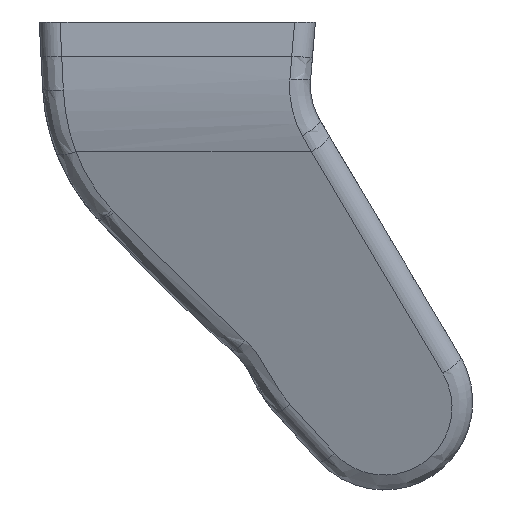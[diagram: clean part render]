
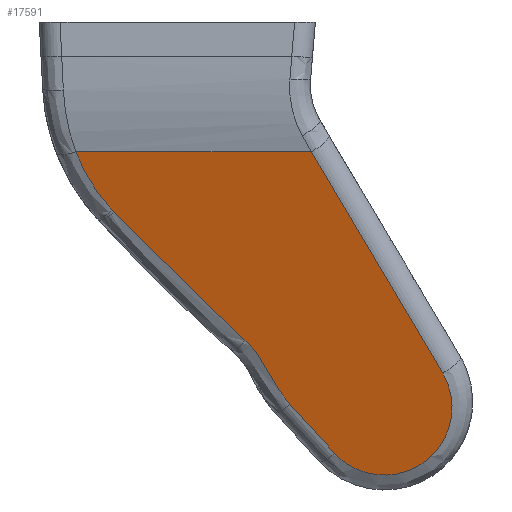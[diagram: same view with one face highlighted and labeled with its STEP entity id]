
A CAD part, left-side view. The second image highlights one B-rep face of the part: STEP entity #17591.
In plain terms, the highlighted planar face has unit normal (-0.961, 0, -0.277).
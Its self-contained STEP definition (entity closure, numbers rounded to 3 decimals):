
#914 = B_SPLINE_CURVE_WITH_KNOTS ( 'NONE', 3,
 ( #3931, #3938, #3945, #3946, #3947, #3948, #3949, #3950, #3951, #3952, #3953, #3954 ),
 .UNSPECIFIED., .F., .F.,
 ( 4, 2, 2, 2, 2, 4 ),
 ( 0., 0.003, 0.006, 0.009, 0.01, 0.012 ),
 .UNSPECIFIED. ) ;
#1763 = CARTESIAN_POINT ( 'NONE',  ( -45.272, 41.523, 51.634 ) ) ;
#1766 = CARTESIAN_POINT ( 'NONE',  ( -45.272, 7.41, 51.634 ) ) ;
#1767 = CARTESIAN_POINT ( 'NONE',  ( -42.831, 36.263, 43.166 ) ) ;
#1768 = CARTESIAN_POINT ( 'NONE',  ( -37.385, 17.007, 24.276 ) ) ;
#1769 = CARTESIAN_POINT ( 'NONE',  ( -34.717, 10.491, 15.022 ) ) ;
#1770 = CARTESIAN_POINT ( 'NONE',  ( -32.684, 4.035, 7.971 ) ) ;
#1771 = CARTESIAN_POINT ( 'NONE',  ( -42.755, 36.023, 42.903 ) ) ;
#1772 = CARTESIAN_POINT ( 'NONE',  ( -36.035, -11.619, 19.594 ) ) ;
#2903 = CARTESIAN_POINT ( 'NONE',  ( -45.272, -15.993, 51.634 ) ) ;
#2905 = FACE_OUTER_BOUND ( 'NONE', #15143, .T. ) ;
#2906 = PLANE ( 'NONE',  #24086 ) ;
#2908 = DIRECTION ( 'NONE',  ( -0.961, 0., -0.277 ) ) ;
#2909 = DIRECTION ( 'NONE',  ( -0.277, 0., 0.961 ) ) ;
#3518 =( BOUNDED_CURVE ( )  B_SPLINE_CURVE ( 3, ( #3926, #3933, #3934, #3935 ),
 .UNSPECIFIED., .F., .T. ) 
 B_SPLINE_CURVE_WITH_KNOTS ( ( 4, 4 ),
 ( 3.971, 4.342 ),
 .UNSPECIFIED. ) 
 CURVE ( )  GEOMETRIC_REPRESENTATION_ITEM ( )  RATIONAL_B_SPLINE_CURVE ( ( 1., 0.989, 0.989, 1. ) ) 
 REPRESENTATION_ITEM ( '' )  );
#3519 =( BOUNDED_CURVE ( )  B_SPLINE_CURVE ( 3, ( #3927, #3940, #3941, #3942 ),
 .UNSPECIFIED., .F., .T. ) 
 B_SPLINE_CURVE_WITH_KNOTS ( ( 4, 4 ),
 ( 3.876, 4.902 ),
 .UNSPECIFIED. ) 
 CURVE ( )  GEOMETRIC_REPRESENTATION_ITEM ( )  RATIONAL_B_SPLINE_CURVE ( ( 1., 0.914, 0.914, 1. ) ) 
 REPRESENTATION_ITEM ( '' )  );
#3520 =( BOUNDED_CURVE ( )  B_SPLINE_CURVE ( 3, ( #3939, #3959, #3960, #3961 ),
 .UNSPECIFIED., .F., .T. ) 
 B_SPLINE_CURVE_WITH_KNOTS ( ( 4, 4 ),
 ( 1.035, 3.971 ),
 .UNSPECIFIED. ) 
 CURVE ( )  GEOMETRIC_REPRESENTATION_ITEM ( )  RATIONAL_B_SPLINE_CURVE ( ( 1., 0.402, 0.402, 1. ) ) 
 REPRESENTATION_ITEM ( '' )  );
#3906 = LINE ( 'NONE', #3911, #24131 ) ;
#3911 = CARTESIAN_POINT ( 'NONE',  ( -45.272, -15.993, 51.634 ) ) ;
#3912 = DIRECTION ( 'NONE',  ( 0., 1., 0. ) ) ;
#3926 = CARTESIAN_POINT ( 'NONE',  ( -42.831, 36.263, 43.166 ) ) ;
#3927 = CARTESIAN_POINT ( 'NONE',  ( -37.385, 17.007, 24.276 ) ) ;
#3931 = CARTESIAN_POINT ( 'NONE',  ( -34.717, 10.491, 15.022 ) ) ;
#3932 = LINE ( 'NONE', #3936, #24129 ) ;
#3933 = CARTESIAN_POINT ( 'NONE',  ( -43.545, 38.534, 45.645 ) ) ;
#3934 = CARTESIAN_POINT ( 'NONE',  ( -44.368, 40.307, 48.5 ) ) ;
#3935 = CARTESIAN_POINT ( 'NONE',  ( -45.272, 41.523, 51.634 ) ) ;
#3936 = CARTESIAN_POINT ( 'NONE',  ( -37.028, 17.831, 23.037 ) ) ;
#3937 = DIRECTION ( 'NONE',  ( -0.208, 0.661, 0.721 ) ) ;
#3938 = CARTESIAN_POINT ( 'NONE',  ( -34.921, 11.141, 15.731 ) ) ;
#3939 = CARTESIAN_POINT ( 'NONE',  ( -36.035, -11.619, 19.594 ) ) ;
#3940 = CARTESIAN_POINT ( 'NONE',  ( -38.665, 22.318, 28.716 ) ) ;
#3941 = CARTESIAN_POINT ( 'NONE',  ( -40.623, 29.251, 35.508 ) ) ;
#3942 = CARTESIAN_POINT ( 'NONE',  ( -42.755, 36.023, 42.903 ) ) ;
#3944 = LINE ( 'NONE', #3955, #24133 ) ;
#3945 = CARTESIAN_POINT ( 'NONE',  ( -35.144, 11.683, 16.505 ) ) ;
#3946 = CARTESIAN_POINT ( 'NONE',  ( -35.606, 12.682, 18.105 ) ) ;
#3947 = CARTESIAN_POINT ( 'NONE',  ( -35.845, 13.135, 18.934 ) ) ;
#3948 = CARTESIAN_POINT ( 'NONE',  ( -36.321, 14.051, 20.585 ) ) ;
#3949 = CARTESIAN_POINT ( 'NONE',  ( -36.558, 14.514, 21.407 ) ) ;
#3950 = CARTESIAN_POINT ( 'NONE',  ( -36.89, 15.335, 22.559 ) ) ;
#3951 = CARTESIAN_POINT ( 'NONE',  ( -36.996, 15.631, 22.928 ) ) ;
#3952 = CARTESIAN_POINT ( 'NONE',  ( -37.199, 16.28, 23.631 ) ) ;
#3953 = CARTESIAN_POINT ( 'NONE',  ( -37.295, 16.635, 23.964 ) ) ;
#3954 = CARTESIAN_POINT ( 'NONE',  ( -37.385, 17.007, 24.276 ) ) ;
#3955 = CARTESIAN_POINT ( 'NONE',  ( -37.028, 17.831, 23.037 ) ) ;
#3956 = DIRECTION ( 'NONE',  ( -0.208, 0.661, 0.721 ) ) ;
#3958 = LINE ( 'NONE', #3962, #24132 ) ;
#3959 = CARTESIAN_POINT ( 'NONE',  ( -32.025, -19.88, 5.684 ) ) ;
#3960 = CARTESIAN_POINT ( 'NONE',  ( -29.245, -6.891, -3.96 ) ) ;
#3961 = CARTESIAN_POINT ( 'NONE',  ( -32.684, 4.035, 7.971 ) ) ;
#3962 = CARTESIAN_POINT ( 'NONE',  ( -42.481, 1.661, 41.953 ) ) ;
#3964 = DIRECTION ( 'NONE',  ( 0.241, -0.496, -0.835 ) ) ;
#13716 = VERTEX_POINT ( 'NONE', #1763 ) ;
#13719 = VERTEX_POINT ( 'NONE', #1766 ) ;
#13720 = VERTEX_POINT ( 'NONE', #1767 ) ;
#13721 = VERTEX_POINT ( 'NONE', #1768 ) ;
#13722 = VERTEX_POINT ( 'NONE', #1769 ) ;
#13723 = VERTEX_POINT ( 'NONE', #1770 ) ;
#13724 = VERTEX_POINT ( 'NONE', #1771 ) ;
#13725 = VERTEX_POINT ( 'NONE', #1772 ) ;
#15143 = EDGE_LOOP ( 'NONE', ( #16009, #16011, #16013, #16015, #16016, #16018, #16020, #16022 ) ) ;
#16009 = ORIENTED_EDGE ( 'NONE', *, *, #17738, .T. ) ;
#16011 = ORIENTED_EDGE ( 'NONE', *, *, #17746, .F. ) ;
#16013 = ORIENTED_EDGE ( 'NONE', *, *, #17748, .F. ) ;
#16015 = ORIENTED_EDGE ( 'NONE', *, *, #17751, .F. ) ;
#16016 = ORIENTED_EDGE ( 'NONE', *, *, #17753, .F. ) ;
#16018 = ORIENTED_EDGE ( 'NONE', *, *, #17754, .F. ) ;
#16020 = ORIENTED_EDGE ( 'NONE', *, *, #17756, .F. ) ;
#16022 = ORIENTED_EDGE ( 'NONE', *, *, #17758, .F. ) ;
#17591 = ADVANCED_FACE ( 'NONE', ( #2905 ), #2906, .T. ) ;
#17738 = EDGE_CURVE ( 'NONE', #13719, #13716, #3906, .T. ) ;
#17746 = EDGE_CURVE ( 'NONE', #13720, #13716, #3518, .T. ) ;
#17748 = EDGE_CURVE ( 'NONE', #13724, #13720, #3932, .T. ) ;
#17751 = EDGE_CURVE ( 'NONE', #13721, #13724, #3519, .T. ) ;
#17753 = EDGE_CURVE ( 'NONE', #13722, #13721, #914, .T. ) ;
#17754 = EDGE_CURVE ( 'NONE', #13723, #13722, #3944, .T. ) ;
#17756 = EDGE_CURVE ( 'NONE', #13725, #13723, #3520, .T. ) ;
#17758 = EDGE_CURVE ( 'NONE', #13719, #13725, #3958, .T. ) ;
#24086 = AXIS2_PLACEMENT_3D ( 'NONE', #2903, #2908, #2909 ) ;
#24129 = VECTOR ( 'NONE', #3937, 1000. ) ;
#24131 = VECTOR ( 'NONE', #3912, 1000. ) ;
#24132 = VECTOR ( 'NONE', #3964, 1000. ) ;
#24133 = VECTOR ( 'NONE', #3956, 1000. ) ;
